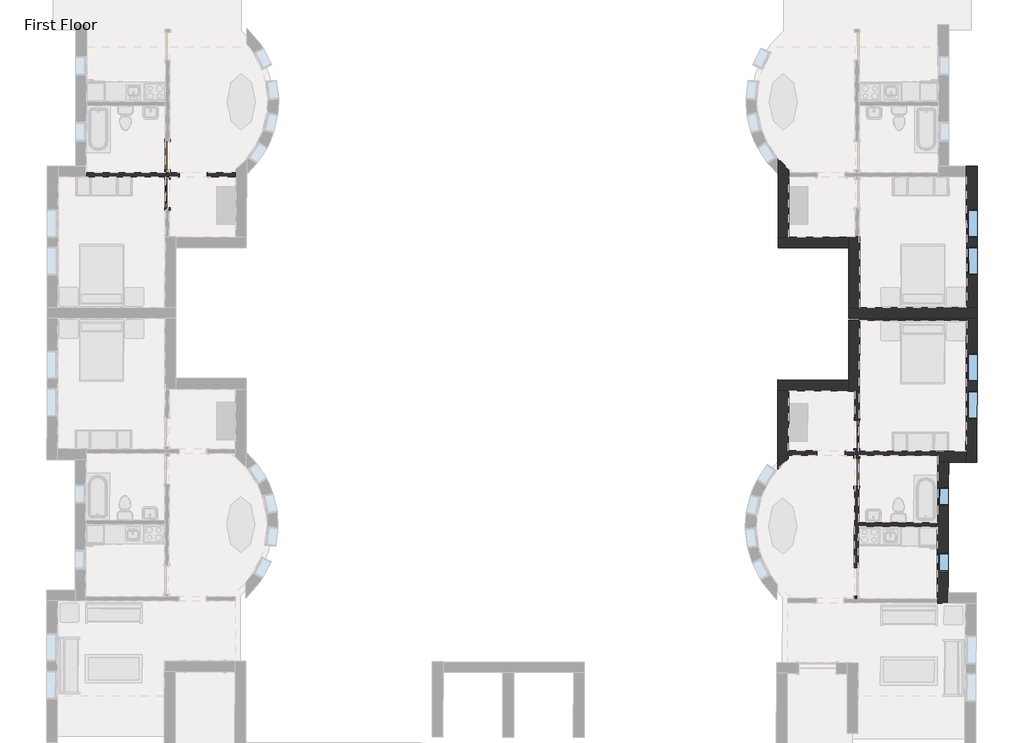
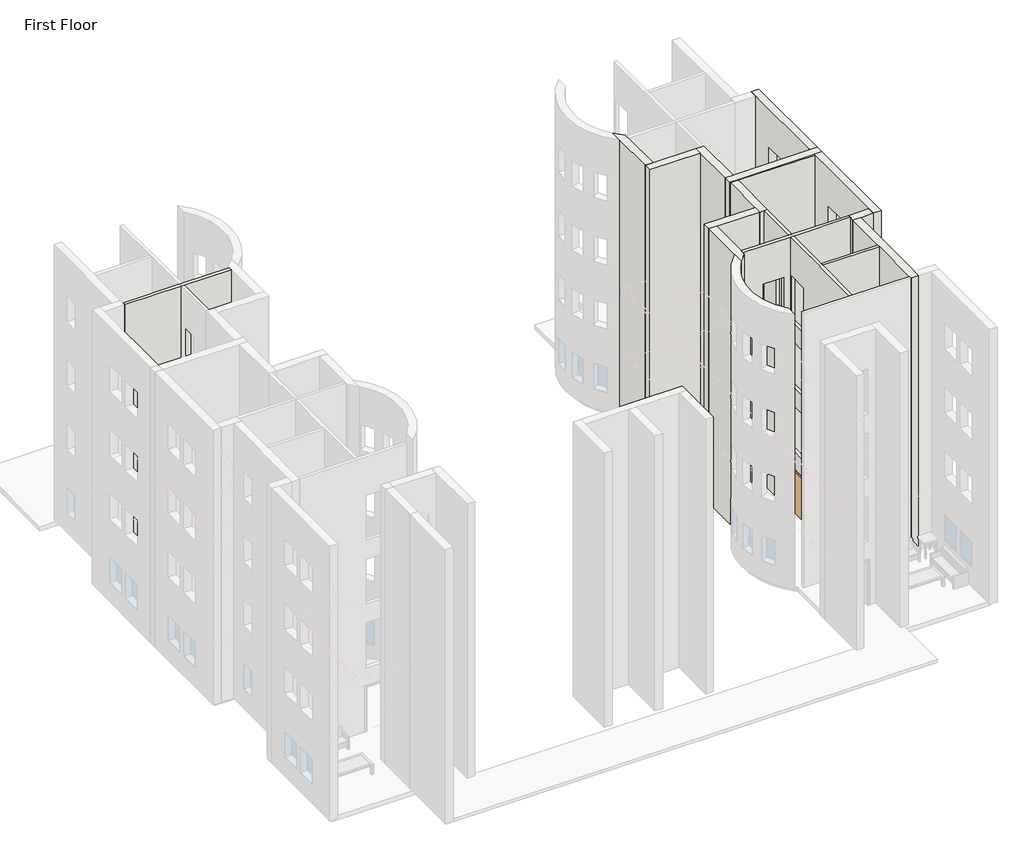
# One storey, part 9 of 23: 16 walls, 6 windows, 4 doors.
"""IFC4 building model written with IfcOpenShell, lengths in millimetres."""

from ifc_helpers import new_model, si_unit, frame, origin, origin_with_axes, place, context, project, spatial, polyline, circle_curve, outline, extrude, faceted_brep, transform, mapped, element, save
from ifc_brep_helpers import plane_surface, revolved_surface, advanced_brep
from components import m_single_decorative_2_0915_x_2134mm_cc9a65e4, m_single_flush_0915_x_2134mm_ab9b6334, m_fixed_0610_x_1220mm_2c28ef1d, m_fixed_0915_x_1220mm_bde29121, m_fixed_0915_x_1220mm_2a2509e7

model = new_model("IFC4")

# Units and contexts
model_context = context("Model", 3, world=origin())
ifc_project = project(units=[si_unit("LENGTHUNIT", "METRE", prefix="MILLI")], contexts=[model_context])

# Site, building, storey
site = spatial("IfcSite", under=ifc_project)
building = spatial("IfcBuilding", under=site)
storey = spatial("IfcBuildingStorey", under=building, Name="First Floor", Elevation=0.0)

# Doors
placement = place(None, origin())
m_single_decorative_2_0915_x_2134mm_shape = m_single_decorative_2_0915_x_2134mm_cc9a65e4(model_context)
element("IfcDoor", 1, ObjectType="M_Single-Decorative 2 : 0915 x 2134mm", at=placement, inside=storey, context=model_context, shape_type="MappedRepresentation", body=[
    mapped(m_single_decorative_2_0915_x_2134mm_shape, transform((-30117.2933431, -15803.1250115, 0.0), x_axis=(0.0014474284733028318, 0.9999989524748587, 0.0), y_axis=(-0.9999989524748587, 0.0014474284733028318, 0.0), z_axis=(0.0, 0.0, 1.0))),
])
element("IfcDoor", 2, ObjectType="M_Single-Decorative 2 : 0915 x 2134mm", at=placement, inside=storey, context=model_context, shape_type="MappedRepresentation", body=[
    mapped(m_single_decorative_2_0915_x_2134mm_shape, transform((-7808.1742155, -23599.2312198, 0.0), x_axis=(-0.004342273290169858, -0.9999905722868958, 0.0), y_axis=(0.9999905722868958, -0.004342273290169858, 0.0), z_axis=(0.0, 0.0, 1.0))),
])
m_single_flush_0915_x_2134mm_shape = m_single_flush_0915_x_2134mm_ab9b6334(model_context)
element("IfcDoor", 3, ObjectType="M_Single-Flush : 0915 x 2134mm", at=placement, inside=storey, context=model_context, shape_type="MappedRepresentation", body=[
    mapped(m_single_flush_0915_x_2134mm_shape, transform((-30115.5274803, -14583.1262895, 0.0), x_axis=(-0.0014474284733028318, -0.9999989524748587, 0.0), y_axis=(0.9999989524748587, -0.0014474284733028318, 0.0), z_axis=(0.0, 0.0, 1.0))),
])
element("IfcDoor", 4, ObjectType="M_Single-Flush : 0915 x 2134mm", at=placement, inside=storey, context=model_context, shape_type="MappedRepresentation", body=[
    mapped(m_single_flush_0915_x_2134mm_shape, transform((-7813.4717889, -24819.219718, 0.0), x_axis=(0.004342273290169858, 0.9999905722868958, 0.0), y_axis=(-0.9999905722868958, 0.004342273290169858, 0.0), z_axis=(0.0, 0.0, 1.0))),
])

# Walls
element("IfcWall", 5, ObjectType="Exterior - Brick on Mtl. Stud", at=placement, inside=storey, context=model_context, shape_type="Brep", body=[
    faceted_brep([(-8066.0409129, -19844.2688215, 0.0), (-7716.0412795, -19843.7622216, 0.0), (-4256.8117198, -19838.755229, 0.0), (-4256.044904, -19838.7541191, 0.0), (-3906.8062202, -19838.2486205, 0.0), (-3906.0452706, -19838.2475191, 0.0), (-3906.0452706, -19838.2475191, 13107.0), (-3906.8062202, -19838.2486205, 13107.0), (-4256.044904, -19838.7541191, 13107.0), (-4256.8117198, -19838.755229, 13107.0), (-7716.0412795, -19843.7622216, 13107.0), (-8066.0409129, -19844.2688215, 13107.0), (-8066.5475129, -19494.2691882, 0.0), (-8066.5475129, -19494.2691882, 13107.0), (-7716.5478795, -19493.7625882, 13107.0), (-4256.5515039, -19488.7544857, 13107.0), (-3906.5518706, -19488.2478857, 13107.0), (-3906.5518706, -19488.2478857, 0.0), (-4256.5515039, -19488.7544857, 0.0), (-7716.5478795, -19493.7625882, 0.0)], [[[0, 1, 2, 3, 4, 5, 6, 7, 8, 9, 10, 11]], [[12, 13, 14, 15, 16, 17, 18, 19]], [[5, 4, 3, 2, 1, 0, 12, 19, 18, 17]], [[11, 10, 9, 8, 7, 6, 16, 15, 14, 13]], [[6, 5, 17, 16]], [[0, 11, 13, 12]]]),
])
element("IfcWall", 6, ObjectType="Exterior - Brick on Mtl. Stud", at=placement, inside=storey, context=model_context, shape_type="Brep", body=[
    faceted_brep([(-3906.5518706, -19488.2478857, 0.0), (-3913.1695136, -14916.252675, 0.0), (-3913.1695136, -14916.252675, 13107.0), (-3906.5518706, -19488.2478857, 13107.0), (-3909.3872382, -17529.3499377, 915.0), (-3908.0628412, -18444.3489792, 915.0), (-3908.0628412, -18444.3489792, 2135.0), (-3909.3872382, -17529.3499377, 2135.0), (-3911.151943, -16310.1512149, 915.0), (-3909.827546, -17225.1502564, 915.0), (-3909.827546, -17225.1502564, 2135.0), (-3911.151943, -16310.1512149, 2135.0), (-3911.151943, -16310.1512149, 10059.0), (-3909.827546, -17225.1502564, 10059.0), (-3909.827546, -17225.1502564, 11279.0), (-3911.151943, -16310.1512149, 11279.0), (-3909.3872382, -17529.3499377, 10059.0), (-3908.0628412, -18444.3489792, 10059.0), (-3908.0628412, -18444.3489792, 11279.0), (-3909.3872382, -17529.3499377, 11279.0), (-3911.151943, -16310.1512149, 3963.0), (-3909.827546, -17225.1502564, 3963.0), (-3909.827546, -17225.1502564, 5183.0), (-3911.151943, -16310.1512149, 5183.0), (-3909.3872382, -17529.3499377, 3963.0), (-3908.0628412, -18444.3489792, 3963.0), (-3908.0628412, -18444.3489792, 5183.0), (-3909.3872382, -17529.3499377, 5183.0), (-3911.151943, -16310.1512149, 7011.0), (-3909.827546, -17225.1502564, 7011.0), (-3909.827546, -17225.1502564, 8231.0), (-3911.151943, -16310.1512149, 8231.0), (-3909.3872382, -17529.3499377, 7011.0), (-3908.0628412, -18444.3489792, 7011.0), (-3908.0628412, -18444.3489792, 8231.0), (-3909.3872382, -17529.3499377, 8231.0), (-4256.5515039, -19488.7544857, 0.0), (-4256.5515039, -19488.7544857, 13107.0), (-4262.662547, -15266.7589083, 13107.0), (-4263.1691469, -14916.759275, 13107.0), (-4263.1691469, -14916.759275, 0.0), (-4262.662547, -15266.7589083, 0.0), (-4259.3868716, -17529.8565377, 915.0), (-4259.3868716, -17529.8565377, 2135.0), (-4258.0624745, -18444.8555792, 2135.0), (-4258.0624745, -18444.8555792, 915.0), (-4261.1515764, -16310.6578148, 915.0), (-4261.1515764, -16310.6578148, 2135.0), (-4259.8271793, -17225.6568563, 2135.0), (-4259.8271793, -17225.6568563, 915.0), (-4261.1515764, -16310.6578148, 10059.0), (-4261.1515764, -16310.6578148, 11279.0), (-4259.8271793, -17225.6568563, 11279.0), (-4259.8271793, -17225.6568563, 10059.0), (-4259.3868716, -17529.8565377, 10059.0), (-4259.3868716, -17529.8565377, 11279.0), (-4258.0624745, -18444.8555792, 11279.0), (-4258.0624745, -18444.8555792, 10059.0), (-4261.1515764, -16310.6578148, 3963.0), (-4261.1515764, -16310.6578148, 5183.0), (-4259.8271793, -17225.6568563, 5183.0), (-4259.8271793, -17225.6568563, 3963.0), (-4259.3868716, -17529.8565377, 3963.0), (-4259.3868716, -17529.8565377, 5183.0), (-4258.0624745, -18444.8555792, 5183.0), (-4258.0624745, -18444.8555792, 3963.0), (-4261.1515764, -16310.6578148, 7011.0), (-4261.1515764, -16310.6578148, 8231.0), (-4259.8271793, -17225.6568563, 8231.0), (-4259.8271793, -17225.6568563, 7011.0), (-4259.3868716, -17529.8565377, 7011.0), (-4259.3868716, -17529.8565377, 8231.0), (-4258.0624745, -18444.8555792, 8231.0), (-4258.0624745, -18444.8555792, 7011.0)], [[[0, 1, 2, 3], [4, 5, 6, 7], [8, 9, 10, 11], [12, 13, 14, 15], [16, 17, 18, 19], [20, 21, 22, 23], [24, 25, 26, 27], [28, 29, 30, 31], [32, 33, 34, 35]], [[36, 37, 38, 39, 40, 41], [42, 43, 44, 45], [46, 47, 48, 49], [50, 51, 52, 53], [54, 55, 56, 57], [58, 59, 60, 61], [62, 63, 64, 65], [66, 67, 68, 69], [70, 71, 72, 73]], [[1, 0, 36, 41, 40]], [[3, 2, 39, 38, 37]], [[0, 3, 37, 36]], [[2, 1, 40, 39]], [[43, 42, 4, 7]], [[44, 43, 7, 6]], [[45, 44, 6, 5]], [[42, 45, 5, 4]], [[47, 46, 8, 11]], [[48, 47, 11, 10]], [[49, 48, 10, 9]], [[46, 49, 9, 8]], [[51, 50, 12, 15]], [[52, 51, 15, 14]], [[53, 52, 14, 13]], [[50, 53, 13, 12]], [[55, 54, 16, 19]], [[56, 55, 19, 18]], [[57, 56, 18, 17]], [[54, 57, 17, 16]], [[59, 58, 20, 23]], [[60, 59, 23, 22]], [[61, 60, 22, 21]], [[58, 61, 21, 20]], [[63, 62, 24, 27]], [[64, 63, 27, 26]], [[65, 64, 26, 25]], [[62, 65, 25, 24]], [[67, 66, 28, 31]], [[68, 67, 31, 30]], [[69, 68, 30, 29]], [[66, 69, 29, 28]], [[71, 70, 32, 35]], [[72, 71, 35, 34]], [[73, 72, 34, 33]], [[70, 73, 33, 32]]]),
])
element("IfcWall", 7, ObjectType="Exterior - Brick on Mtl. Stud", at=placement, inside=storey, context=model_context, shape_type="Brep", body=[
    faceted_brep([(-7716.5478795, -19493.7625882, 0.0), (-7719.856701, -17207.7649828, 0.0), (-7719.856701, -17207.7649828, 13107.0), (-7716.5478795, -19493.7625882, 13107.0), (-8066.5475129, -19494.2691882, 0.0), (-8066.5475129, -19494.2691882, 13107.0), (-8069.3497344, -17558.2712162, 13107.0), (-8069.8563344, -17208.2715828, 13107.0), (-8069.8563344, -17208.2715828, 0.0), (-8069.3497344, -17558.2712162, 0.0), (-7862.6065515, -17207.9716033, 0.0), (-7727.1066934, -17207.7754767, 0.0), (-7727.1066934, -17207.7754767, 13107.0), (-7862.6065515, -17207.9716033, 13107.0)], [[[0, 1, 2, 3]], [[4, 5, 6, 7, 8, 9]], [[1, 0, 4, 9, 8, 10, 11]], [[3, 2, 12, 13, 7, 6, 5]], [[0, 3, 5, 4]], [[2, 1, 11, 10, 8, 7, 13, 12]]]),
])
element("IfcWall", 8, ObjectType="Exterior - Brick on Mtl. Stud", at=placement, inside=storey, context=model_context, shape_type="Brep", body=[
    faceted_brep([(-8069.8563344, -17208.2715828, 0.0), (-10005.8543064, -17211.0738043, 0.0), (-10355.8539397, -17211.5804043, 0.0), (-10355.8539397, -17211.5804043, 13107.0), (-10005.8543064, -17211.0738043, 13107.0), (-8069.8563344, -17208.2715828, 13107.0), (-8069.3497344, -17558.2712162, 0.0), (-8069.3497344, -17558.2712162, 13107.0), (-10355.3473398, -17561.5800377, 13107.0), (-10355.3473398, -17561.5800377, 0.0)], [[[0, 1, 2, 3, 4, 5]], [[6, 7, 8, 9]], [[2, 1, 0, 6, 9]], [[5, 4, 3, 8, 7]], [[0, 5, 7, 6]], [[3, 2, 9, 8]]]),
])
element("IfcWall", 9, ObjectType="Exterior - Brick on Mtl. Stud", at=placement, inside=storey, context=model_context, shape_type="AdvancedBrep", body=[
    advanced_brep(
    [(-10005.8543064, -17211.0738043, 0.0), (-10008.6670217, -15267.8258399, 0.0), (-10008.8631483, -15132.3259819, 0.0), (-10009.0262187, -15019.663975, 0.0), (-10009.0262187, -15019.663975, 13107.0), (-10008.8631483, -15132.3259819, 13107.0), (-10008.6670217, -15267.8258399, 13107.0), (-10005.8543064, -17211.0738043, 13107.0), (-10355.8539397, -17211.5804043, 0.0), (-10355.8539397, -17211.5804043, 13107.0), (-10358.7970277, -15178.2606268, 13107.0), (-10359.5284893, -14672.9086878, 13107.0), (-10359.5284893, -14672.9086878, 0.0), (-10358.7970277, -15178.2606268, 0.0)],
    [
        (0, 1),
        (1, 2),
        (2, 3),
        (3, 4),
        (4, 5),
        (5, 6),
        (6, 7),
        (7, 0),
        (8, 9),
        (9, 10),
        (10, 11),
        (11, 12),
        (12, 13),
        (13, 8),
        (0, 8),
        (12, 3, circle_curve(frame((-8171.1580789, -12811.413604, 0.0), z_axis=(0.0, 0.0, 1.0), x_axis=(-0.0014474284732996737, 0.9999989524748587, 0.0)), 2873.0)),
        (4, 11, circle_curve(frame((-8171.1580789, -12811.413604, 13107.0), z_axis=(0.0, 0.0, -1.0), x_axis=(-0.0014474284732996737, 0.9999989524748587, 0.0)), 2873.0)),
        (9, 7),
    ],
    [
        plane_surface(frame((-10005.6010064, -17386.073621, 0.0), z_axis=(0.9999989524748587, 0.0014474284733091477, 0.0), x_axis=(-0.0014474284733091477, 0.9999989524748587, 0.0))),
        plane_surface(frame((-10355.6006397, -17386.580221, 0.0), z_axis=(-0.9999989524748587, -0.0014474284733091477, 0.0), x_axis=(0.0014474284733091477, -0.9999989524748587, 0.0))),
        plane_surface(frame((-10005.6010064, -17386.073621, 0.0), z_axis=(0.0, 0.0, -1.0), x_axis=(-0.9999989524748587, -0.001447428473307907, 0.0))),
        plane_surface(frame((-10008.9098279, -15100.0760157, 13107.0), z_axis=(0.0, 0.0, 1.0), x_axis=(-0.9999989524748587, -0.001447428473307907, 0.0))),
        plane_surface(frame((-7894.8565177, -17208.0182828, 0.0), z_axis=(0.0014474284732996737, -0.9999989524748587, 0.0), x_axis=(-0.9999989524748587, -0.0014474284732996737, 0.0))),
        revolved_surface(polyline([(-8175.31654090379, -9938.41661353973, 0.0), (-8175.31654090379, -9938.41661353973, 13107.0)]), (-8171.1580789, -12811.413604, 0.0), (0.0, 0.0, -1.0)),
    ],
    [
        (0, [[1, 2, 3, 4, 5, 6, 7, 8]]),
        (1, [[9, 10, 11, 12, 13, 14]]),
        (2, [[-3, -2, -1, 15, -14, -13, 16]]),
        (3, [[-7, -6, -5, 17, -11, -10, 18]]),
        (4, [[-8, -18, -9, -15]]),
        (5, [[-4, -16, -12, -17]]),
    ],
),
])
element("IfcWall", 10, ObjectType="Exterior - Brick on Mtl. Stud", at=placement, inside=storey, context=model_context, shape_type="SweptSolid", body=[
    extrude(outline(polyline([(-4255.9217026, -19923.8714208), (-7715.947074, -19908.8469034), (-7716.0412795, -19843.7622216), (-4256.044904, -19838.7541191), (-4255.9217026, -19923.8714208)])), origin_with_axes(), (0.0, 0.0, 1.0), 13107.0),
])
element("IfcWall", 11, ObjectType="Exterior - Brick on Mtl. Stud", at=placement, inside=storey, context=model_context, shape_type="Brep", body=[
    faceted_brep([(-4256.8117198, -19838.755229, 0.0), (-4275.5143752, -24145.8261474, 0.0), (-4277.0341708, -24495.8228477, 0.0), (-4277.0341708, -24495.8228477, 13107.0), (-4275.5143752, -24145.8261474, 13107.0), (-4256.8117198, -19838.755229, 13107.0), (-4265.6873765, -21882.7474833, 915.0), (-4261.7141964, -20967.7561097, 915.0), (-4261.7141964, -20967.7561097, 2135.0), (-4265.6873765, -21882.7474833, 2135.0), (-4270.9814761, -23101.935989, 915.0), (-4267.008296, -22186.9446154, 915.0), (-4267.008296, -22186.9446154, 2135.0), (-4270.9814761, -23101.935989, 2135.0), (-4270.9814761, -23101.935989, 10059.0), (-4267.008296, -22186.9446154, 10059.0), (-4267.008296, -22186.9446154, 11279.0), (-4270.9814761, -23101.935989, 11279.0), (-4265.6873765, -21882.7474833, 10059.0), (-4261.7141964, -20967.7561097, 10059.0), (-4261.7141964, -20967.7561097, 11279.0), (-4265.6873765, -21882.7474833, 11279.0), (-4270.9814761, -23101.935989, 3963.0), (-4267.008296, -22186.9446154, 3963.0), (-4267.008296, -22186.9446154, 5183.0), (-4270.9814761, -23101.935989, 5183.0), (-4265.6873765, -21882.7474833, 3963.0), (-4261.7141964, -20967.7561097, 3963.0), (-4261.7141964, -20967.7561097, 5183.0), (-4265.6873765, -21882.7474833, 5183.0), (-4270.9814761, -23101.935989, 7011.0), (-4267.008296, -22186.9446154, 7011.0), (-4267.008296, -22186.9446154, 8231.0), (-4270.9814761, -23101.935989, 8231.0), (-4265.6873765, -21882.7474833, 7011.0), (-4261.7141964, -20967.7561097, 7011.0), (-4261.7141964, -20967.7561097, 8231.0), (-4265.6873765, -21882.7474833, 8231.0), (-3906.8062202, -19838.2486205, 0.0), (-3906.8062202, -19838.2486205, 13107.0), (-3927.0374705, -24497.3426434, 13107.0), (-3927.0374705, -24497.3426434, 0.0), (-3915.6906762, -21884.267279, 915.0), (-3915.6906762, -21884.267279, 2135.0), (-3911.7174961, -20969.2759053, 2135.0), (-3911.7174961, -20969.2759053, 915.0), (-3920.9847758, -23103.4557847, 915.0), (-3920.9847758, -23103.4557847, 2135.0), (-3917.0115957, -22188.464411, 2135.0), (-3917.0115957, -22188.464411, 915.0), (-3920.9847758, -23103.4557847, 10059.0), (-3920.9847758, -23103.4557847, 11279.0), (-3917.0115957, -22188.464411, 11279.0), (-3917.0115957, -22188.464411, 10059.0), (-3915.6906762, -21884.267279, 10059.0), (-3915.6906762, -21884.267279, 11279.0), (-3911.7174961, -20969.2759053, 11279.0), (-3911.7174961, -20969.2759053, 10059.0), (-3920.9847758, -23103.4557847, 3963.0), (-3920.9847758, -23103.4557847, 5183.0), (-3917.0115957, -22188.464411, 5183.0), (-3917.0115957, -22188.464411, 3963.0), (-3915.6906762, -21884.267279, 3963.0), (-3915.6906762, -21884.267279, 5183.0), (-3911.7174961, -20969.2759053, 5183.0), (-3911.7174961, -20969.2759053, 3963.0), (-3920.9847758, -23103.4557847, 7011.0), (-3920.9847758, -23103.4557847, 8231.0), (-3917.0115957, -22188.464411, 8231.0), (-3917.0115957, -22188.464411, 7011.0), (-3915.6906762, -21884.267279, 7011.0), (-3915.6906762, -21884.267279, 8231.0), (-3911.7174961, -20969.2759053, 8231.0), (-3911.7174961, -20969.2759053, 7011.0)], [[[0, 1, 2, 3, 4, 5], [6, 7, 8, 9], [10, 11, 12, 13], [14, 15, 16, 17], [18, 19, 20, 21], [22, 23, 24, 25], [26, 27, 28, 29], [30, 31, 32, 33], [34, 35, 36, 37]], [[38, 39, 40, 41], [42, 43, 44, 45], [46, 47, 48, 49], [50, 51, 52, 53], [54, 55, 56, 57], [58, 59, 60, 61], [62, 63, 64, 65], [66, 67, 68, 69], [70, 71, 72, 73]], [[2, 1, 0, 38, 41]], [[5, 4, 3, 40, 39]], [[0, 5, 39, 38]], [[3, 2, 41, 40]], [[43, 42, 6, 9]], [[44, 43, 9, 8]], [[45, 44, 8, 7]], [[42, 45, 7, 6]], [[47, 46, 10, 13]], [[48, 47, 13, 12]], [[49, 48, 12, 11]], [[46, 49, 11, 10]], [[51, 50, 14, 17]], [[52, 51, 17, 16]], [[53, 52, 16, 15]], [[50, 53, 15, 14]], [[55, 54, 18, 21]], [[56, 55, 21, 20]], [[57, 56, 20, 19]], [[54, 57, 19, 18]], [[59, 58, 22, 25]], [[60, 59, 25, 24]], [[61, 60, 24, 23]], [[58, 61, 23, 22]], [[63, 62, 26, 29]], [[64, 63, 29, 28]], [[65, 64, 28, 27]], [[62, 65, 27, 26]], [[67, 66, 30, 33]], [[68, 67, 33, 32]], [[69, 68, 32, 31]], [[66, 69, 31, 30]], [[71, 70, 34, 37]], [[72, 71, 37, 36]], [[73, 72, 36, 35]], [[70, 73, 35, 34]]]),
])
element("IfcWall", 12, ObjectType="Exterior - Brick on Mtl. Stud", at=placement, inside=storey, context=model_context, shape_type="Brep", body=[
    faceted_brep([(-4275.5143752, -24145.8261474, 0.0), (-5189.9057545, -24141.8555727, 0.0), (-5189.9057545, -24141.8555727, 13107.0), (-4275.5143752, -24145.8261474, 13107.0), (-4277.0341708, -24495.8228477, 0.0), (-4277.0341708, -24495.8228477, 13107.0), (-4841.4288498, -24493.3720687, 13107.0), (-5191.4255501, -24491.852273, 13107.0), (-5191.4255501, -24491.852273, 0.0), (-4841.4288498, -24493.3720687, 0.0), (-5190.525614, -24284.6042269, 0.0), (-5189.9372359, -24149.1055044, 0.0), (-5189.9372359, -24149.1055044, 13107.0), (-5190.525614, -24284.6042269, 13107.0)], [[[0, 1, 2, 3]], [[4, 5, 6, 7, 8, 9]], [[1, 0, 4, 9, 8, 10, 11]], [[3, 2, 12, 13, 7, 6, 5]], [[0, 3, 5, 4]], [[2, 1, 11, 10, 8, 7, 13, 12]]]),
])
element("IfcWall", 13, ObjectType="Exterior - Brick on Mtl. Stud", at=placement, inside=storey, context=model_context, shape_type="Brep", body=[
    faceted_brep([(-5191.4255501, -24491.852273, 0.0), (-5199.9303266, -26450.4338079, 0.0), (-5200.5187046, -26585.9325305, 0.0), (-5210.6585641, -28921.0605153, 0.0), (-5211.2469421, -29056.5592379, 0.0), (-5211.2784236, -29063.8091695, 0.0), (-5211.2784236, -29063.8091695, 13107.0), (-5211.2469421, -29056.5592379, 13107.0), (-5210.6585641, -28921.0605153, 13107.0), (-5200.5187046, -26585.9325305, 13107.0), (-5199.9303266, -26450.4338079, 13107.0), (-5191.4255501, -24491.852273, 13107.0), (-5197.5783343, -25908.7889144, 915.0), (-5194.9295475, -25298.7946654, 915.0), (-5194.9295475, -25298.7946654, 2135.0), (-5197.5783343, -25908.7889144, 2135.0), (-5206.8430085, -28042.3687995, 915.0), (-5204.1942218, -27432.3745504, 915.0), (-5204.1942218, -27432.3745504, 2135.0), (-5206.8430085, -28042.3687995, 2135.0), (-5206.8430085, -28042.3687995, 10059.0), (-5204.1942218, -27432.3745504, 10059.0), (-5204.1942218, -27432.3745504, 11279.0), (-5206.8430085, -28042.3687995, 11279.0), (-5197.5783343, -25908.7889144, 10059.0), (-5194.9295475, -25298.7946654, 10059.0), (-5194.9295475, -25298.7946654, 11279.0), (-5197.5783343, -25908.7889144, 11279.0), (-5206.8430085, -28042.3687995, 3963.0), (-5204.1942218, -27432.3745504, 3963.0), (-5204.1942218, -27432.3745504, 5183.0), (-5206.8430085, -28042.3687995, 5183.0), (-5197.5783343, -25908.7889144, 3963.0), (-5194.9295475, -25298.7946654, 3963.0), (-5194.9295475, -25298.7946654, 5183.0), (-5197.5783343, -25908.7889144, 5183.0), (-5206.8430085, -28042.3687995, 7011.0), (-5204.1942218, -27432.3745504, 7011.0), (-5204.1942218, -27432.3745504, 8231.0), (-5206.8430085, -28042.3687995, 8231.0), (-5197.5783343, -25908.7889144, 7011.0), (-5194.9295475, -25298.7946654, 7011.0), (-5194.9295475, -25298.7946654, 8231.0), (-5197.5783343, -25908.7889144, 8231.0), (-4841.4288498, -24493.3720687, 0.0), (-4841.4288498, -24493.3720687, 13107.0), (-4859.7619276, -28715.3322649, 13107.0), (-4861.2817233, -29065.3289652, 13107.0), (-4861.2817233, -29065.3289652, 0.0), (-4859.7619276, -28715.3322649, 0.0), (-4847.5816339, -25910.3087101, 915.0), (-4847.5816339, -25910.3087101, 2135.0), (-4844.9328472, -25300.314461, 2135.0), (-4844.9328472, -25300.314461, 915.0), (-4856.8463082, -28043.8885951, 915.0), (-4856.8463082, -28043.8885951, 2135.0), (-4854.1975215, -27433.894346, 2135.0), (-4854.1975215, -27433.894346, 915.0), (-4856.8463082, -28043.8885951, 10059.0), (-4856.8463082, -28043.8885951, 11279.0), (-4854.1975215, -27433.894346, 11279.0), (-4854.1975215, -27433.894346, 10059.0), (-4847.5816339, -25910.3087101, 10059.0), (-4847.5816339, -25910.3087101, 11279.0), (-4844.9328472, -25300.314461, 11279.0), (-4844.9328472, -25300.314461, 10059.0), (-4856.8463082, -28043.8885951, 3963.0), (-4856.8463082, -28043.8885951, 5183.0), (-4854.1975215, -27433.894346, 5183.0), (-4854.1975215, -27433.894346, 3963.0), (-4847.5816339, -25910.3087101, 3963.0), (-4847.5816339, -25910.3087101, 5183.0), (-4844.9328472, -25300.314461, 5183.0), (-4844.9328472, -25300.314461, 3963.0), (-4856.8463082, -28043.8885951, 7011.0), (-4856.8463082, -28043.8885951, 8231.0), (-4854.1975215, -27433.894346, 8231.0), (-4854.1975215, -27433.894346, 7011.0), (-4847.5816339, -25910.3087101, 7011.0), (-4847.5816339, -25910.3087101, 8231.0), (-4844.9328472, -25300.314461, 8231.0), (-4844.9328472, -25300.314461, 7011.0)], [[[0, 1, 2, 3, 4, 5, 6, 7, 8, 9, 10, 11], [12, 13, 14, 15], [16, 17, 18, 19], [20, 21, 22, 23], [24, 25, 26, 27], [28, 29, 30, 31], [32, 33, 34, 35], [36, 37, 38, 39], [40, 41, 42, 43]], [[44, 45, 46, 47, 48, 49], [50, 51, 52, 53], [54, 55, 56, 57], [58, 59, 60, 61], [62, 63, 64, 65], [66, 67, 68, 69], [70, 71, 72, 73], [74, 75, 76, 77], [78, 79, 80, 81]], [[5, 4, 3, 2, 1, 0, 44, 49, 48]], [[11, 10, 9, 8, 7, 6, 47, 46, 45]], [[0, 11, 45, 44]], [[6, 5, 48, 47]], [[51, 50, 12, 15]], [[52, 51, 15, 14]], [[53, 52, 14, 13]], [[50, 53, 13, 12]], [[55, 54, 16, 19]], [[56, 55, 19, 18]], [[57, 56, 18, 17]], [[54, 57, 17, 16]], [[59, 58, 20, 23]], [[60, 59, 23, 22]], [[61, 60, 22, 21]], [[58, 61, 21, 20]], [[63, 62, 24, 27]], [[64, 63, 27, 26]], [[65, 64, 26, 25]], [[62, 65, 25, 24]], [[67, 66, 28, 31]], [[68, 67, 31, 30]], [[69, 68, 30, 29]], [[66, 69, 29, 28]], [[71, 70, 32, 35]], [[72, 71, 35, 34]], [[73, 72, 34, 33]], [[70, 73, 33, 32]], [[75, 74, 36, 39]], [[76, 75, 39, 38]], [[77, 76, 38, 37]], [[74, 77, 37, 36]], [[79, 78, 40, 43]], [[80, 79, 43, 42]], [[81, 80, 42, 41]], [[78, 81, 41, 40]]]),
])
element("IfcWall", 14, ObjectType="Exterior - Brick on Mtl. Stud", at=placement, inside=storey, context=model_context, shape_type="Brep", body=[
    faceted_brep([(-8067.1453777, -19907.32189, 0.0), (-8075.5520188, -21843.303638, 0.0), (-8077.0718145, -22193.3003383, 0.0), (-8077.0718145, -22193.3003383, 13107.0), (-8075.5520188, -21843.303638, 13107.0), (-8067.1453777, -19907.32189, 13107.0), (-7717.1486774, -19908.8416857, 0.0), (-7717.1486774, -19908.8416857, 13107.0), (-7727.0751142, -22194.8201339, 13107.0), (-7727.0751142, -22194.8201339, 0.0), (-7734.3250458, -22194.7886524, 0.0), (-7869.8237684, -22194.2002744, 0.0), (-7869.8237684, -22194.2002744, 13107.0), (-7734.3250458, -22194.7886524, 13107.0)], [[[0, 1, 2, 3, 4, 5]], [[6, 7, 8, 9]], [[2, 1, 0, 6, 9, 10, 11]], [[5, 4, 3, 12, 13, 8, 7]], [[0, 5, 7, 6]], [[3, 2, 11, 10, 9, 8, 13, 12]]]),
])
element("IfcWall", 15, ObjectType="Exterior - Brick on Mtl. Stud", at=placement, inside=storey, context=model_context, shape_type="Brep", body=[
    faceted_brep([(-8075.5520188, -21843.303638, 0.0), (-10361.5304671, -21833.3772012, 0.0), (-10361.5304671, -21833.3772012, 13107.0), (-8075.5520188, -21843.303638, 13107.0), (-8077.0718145, -22193.3003383, 0.0), (-8077.0718145, -22193.3003383, 13107.0), (-10013.0535624, -22184.8936972, 13107.0), (-10363.0502627, -22183.3739015, 13107.0), (-10363.0502627, -22183.3739015, 0.0), (-10013.0535624, -22184.8936972, 0.0)], [[[0, 1, 2, 3]], [[4, 5, 6, 7, 8, 9]], [[1, 0, 4, 9, 8]], [[3, 2, 7, 6, 5]], [[0, 3, 5, 4]], [[2, 1, 8, 7]]]),
])
element("IfcWall", 16, ObjectType="Exterior - Brick on Mtl. Stud", at=placement, inside=storey, context=model_context, shape_type="AdvancedBrep", body=[
    advanced_brep(
    [(-10363.0502627, -22183.3739015, 0.0), (-10371.8795021, -24216.6766394, 0.0), (-10374.0738807, -24722.0243435, 0.0), (-10374.0738807, -24722.0243435, 13107.0), (-10371.8795021, -24216.6766394, 13107.0), (-10363.0502627, -22183.3739015, 13107.0), (-10013.0535624, -22184.8936972, 0.0), (-10013.0535624, -22184.8936972, 13107.0), (-10021.491685, -24128.1253768, 13107.0), (-10022.080063, -24263.6240993, 13107.0), (-10022.5692728, -24376.2851621, 13107.0), (-10022.5692728, -24376.2851621, 0.0), (-10022.080063, -24263.6240993, 0.0), (-10021.491685, -24128.1253768, 0.0)],
    [
        (0, 1),
        (1, 2),
        (2, 3),
        (3, 4),
        (4, 5),
        (5, 0),
        (6, 7),
        (7, 8),
        (8, 9),
        (9, 10),
        (10, 11),
        (11, 12),
        (12, 13),
        (13, 6),
        (0, 6),
        (11, 2, circle_curve(frame((-8191.1013961, -26589.84664, 0.0), z_axis=(0.0, 0.0, 1.0), x_axis=(-0.0043422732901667, -0.9999905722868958, 0.0)), 2873.0)),
        (3, 10, circle_curve(frame((-8191.1013961, -26589.84664, 13107.0), z_axis=(0.0, 0.0, -1.0), x_axis=(-0.0043422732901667, -0.9999905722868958, 0.0)), 2873.0)),
        (7, 5),
    ],
    [
        plane_surface(frame((-10362.2903649, -22008.3755514, 0.0), z_axis=(-0.9999905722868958, 0.0043422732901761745, 0.0), x_axis=(-0.0043422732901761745, -0.9999905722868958, 0.0))),
        plane_surface(frame((-10012.2936646, -22009.895347, 0.0), z_axis=(0.9999905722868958, -0.0043422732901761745, 0.0), x_axis=(0.0043422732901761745, 0.9999905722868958, 0.0))),
        plane_surface(frame((-10362.2903649, -22008.3755514, 0.0), z_axis=(0.0, 0.0, -1.0000000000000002), x_axis=(0.9999905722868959, -0.004342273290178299, 0.0))),
        plane_surface(frame((-10372.2168016, -24294.3539996, 13107.0), z_axis=(0.0, 0.0, 1.0000000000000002), x_axis=(0.9999905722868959, -0.004342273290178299, 0.0))),
        plane_surface(frame((-7902.0734643, -22194.0602361, 0.0), z_axis=(0.004342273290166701, 0.9999905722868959, 0.0), x_axis=(0.9999905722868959, -0.004342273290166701, 0.0))),
        revolved_surface(polyline([(-8203.576747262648, -29462.819554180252, 0.0), (-8203.576747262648, -29462.819554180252, 13107.0)]), (-8191.1013961, -26589.84664, 0.0), (0.0, 0.0, -1.0)),
    ],
    [
        (0, [[1, 2, 3, 4, 5, 6]]),
        (1, [[7, 8, 9, 10, 11, 12, 13, 14]]),
        (2, [[-2, -1, 15, -14, -13, -12, 16]]),
        (3, [[-5, -4, 17, -10, -9, -8, 18]]),
        (4, [[-6, -18, -7, -15]]),
        (5, [[-3, -16, -11, -17]]),
    ],
),
])
element("IfcWall", 17, ObjectType="Interior - 135mm Partition (2-hr)", at=placement, inside=storey, context=model_context, shape_type="Brep", body=[
    faceted_brep([(-28820.8152601, -15266.5010087, 2134.0), (-28820.8152601, -15266.5010087, 0.0), (-27905.5162189, -15267.8258399, 0.0), (-27905.5162189, -15267.8258399, 13107.0), (-30048.7639738, -15264.7236389, 13107.0), (-30184.2638319, -15264.5275123, 13107.0), (-32737.1111577, -15260.8324445, 13107.0), (-32737.1111577, -15260.8324445, 0.0), (-30184.2638319, -15264.5275123, 0.0), (-30048.7639738, -15264.7236389, 0.0), (-29735.8143016, -15265.1766116, 0.0), (-29735.8143016, -15265.1766116, 2134.0), (-29735.8143016, -15265.1766116, 11278.0), (-28820.8152601, -15266.5010087, 11278.0), (-28820.8152601, -15266.5010087, 9144.0), (-29735.8143016, -15265.1766116, 9144.0), (-29735.8143016, -15265.1766116, 5182.0), (-28820.8152601, -15266.5010087, 5182.0), (-28820.8152601, -15266.5010087, 3048.0), (-29735.8143016, -15265.1766116, 3048.0), (-29735.8143016, -15265.1766116, 8230.0), (-28820.8152601, -15266.5010087, 8230.0), (-28820.8152601, -15266.5010087, 6096.0), (-29735.8143016, -15265.1766116, 6096.0), (-27905.3200924, -15132.3259819, 0.0), (-28820.6191336, -15131.0011506, 0.0), (-28820.6191336, -15131.0011506, 2134.0), (-29735.6181751, -15129.6767535, 2134.0), (-29735.6181751, -15129.6767535, 0.0), (-30048.5678472, -15129.2237808, 0.0), (-30184.0677053, -15129.0276542, 0.0), (-32736.9150311, -15125.3325865, 0.0), (-32736.9150311, -15125.3325865, 13107.0), (-30184.0677053, -15129.0276542, 13107.0), (-30048.5678472, -15129.2237808, 13107.0), (-27905.3200924, -15132.3259819, 13107.0), (-29735.6181751, -15129.6767535, 11278.0), (-29735.6181751, -15129.6767535, 9144.0), (-28820.6191336, -15131.0011506, 9144.0), (-28820.6191336, -15131.0011506, 11278.0), (-29735.6181751, -15129.6767535, 5182.0), (-29735.6181751, -15129.6767535, 3048.0), (-28820.6191336, -15131.0011506, 3048.0), (-28820.6191336, -15131.0011506, 5182.0), (-29735.6181751, -15129.6767535, 8230.0), (-29735.6181751, -15129.6767535, 6096.0), (-28820.6191336, -15131.0011506, 6096.0), (-28820.6191336, -15131.0011506, 8230.0)], [[[0, 1, 2, 3, 4, 5, 6, 7, 8, 9, 10, 11], [12, 13, 14, 15], [16, 17, 18, 19], [20, 21, 22, 23]], [[24, 25, 26, 27, 28, 29, 30, 31, 32, 33, 34, 35], [36, 37, 38, 39], [40, 41, 42, 43], [44, 45, 46, 47]], [[2, 1, 25, 24]], [[10, 9, 8, 7, 31, 30, 29, 28]], [[6, 5, 4, 3, 35, 34, 33, 32]], [[7, 6, 32, 31]], [[3, 2, 24, 35]], [[28, 27, 11, 10]], [[26, 25, 1, 0]], [[27, 26, 0, 11]], [[37, 36, 12, 15]], [[38, 37, 15, 14]], [[39, 38, 14, 13]], [[36, 39, 13, 12]], [[41, 40, 16, 19]], [[42, 41, 19, 18]], [[43, 42, 18, 17]], [[40, 43, 17, 16]], [[45, 44, 20, 23]], [[46, 45, 23, 22]], [[47, 46, 22, 21]], [[44, 47, 21, 20]]]),
])
element("IfcWall", 18, ObjectType="Interior - 135mm Partition (2-hr)", at=placement, inside=storey, context=model_context, shape_type="Brep", body=[
    faceted_brep([(-9106.2003142, -24132.0998595, 2134.0), (-9106.2003142, -24132.0998595, 0.0), (-10021.491685, -24128.1253768, 0.0), (-10021.491685, -24128.1253768, 13107.0), (-7878.2618909, -24137.431954, 13107.0), (-7742.7631684, -24138.020332, 13107.0), (-5189.9372359, -24149.1055044, 13107.0), (-5189.9372359, -24149.1055044, 0.0), (-7742.7631684, -24138.020332, 0.0), (-7878.2618909, -24137.431954, 0.0), (-8191.2089405, -24136.0730396, 0.0), (-8191.2089405, -24136.0730396, 2134.0), (-8191.2089405, -24136.0730396, 11278.0), (-9106.2003142, -24132.0998595, 11278.0), (-9106.2003142, -24132.0998595, 9144.0), (-8191.2089405, -24136.0730396, 9144.0), (-8191.2089405, -24136.0730396, 5182.0), (-9106.2003142, -24132.0998595, 5182.0), (-9106.2003142, -24132.0998595, 3048.0), (-8191.2089405, -24136.0730396, 3048.0), (-8191.2089405, -24136.0730396, 8230.0), (-9106.2003142, -24132.0998595, 8230.0), (-9106.2003142, -24132.0998595, 6096.0), (-8191.2089405, -24136.0730396, 6096.0), (-10022.080063, -24263.6240993, 0.0), (-9106.7886922, -24267.5985821, 0.0), (-9106.7886922, -24267.5985821, 2134.0), (-8191.7973186, -24271.5717621, 2134.0), (-8191.7973186, -24271.5717621, 0.0), (-7878.850269, -24272.9306765, 0.0), (-7743.3515464, -24273.5190546, 0.0), (-5190.525614, -24284.6042269, 0.0), (-5190.525614, -24284.6042269, 13107.0), (-7743.3515464, -24273.5190546, 13107.0), (-7878.850269, -24272.9306765, 13107.0), (-10022.080063, -24263.6240993, 13107.0), (-8191.7973186, -24271.5717621, 11278.0), (-8191.7973186, -24271.5717621, 9144.0), (-9106.7886922, -24267.5985821, 9144.0), (-9106.7886922, -24267.5985821, 11278.0), (-8191.7973186, -24271.5717621, 5182.0), (-8191.7973186, -24271.5717621, 3048.0), (-9106.7886922, -24267.5985821, 3048.0), (-9106.7886922, -24267.5985821, 5182.0), (-8191.7973186, -24271.5717621, 8230.0), (-8191.7973186, -24271.5717621, 6096.0), (-9106.7886922, -24267.5985821, 6096.0), (-9106.7886922, -24267.5985821, 8230.0)], [[[0, 1, 2, 3, 4, 5, 6, 7, 8, 9, 10, 11], [12, 13, 14, 15], [16, 17, 18, 19], [20, 21, 22, 23]], [[24, 25, 26, 27, 28, 29, 30, 31, 32, 33, 34, 35], [36, 37, 38, 39], [40, 41, 42, 43], [44, 45, 46, 47]], [[2, 1, 25, 24]], [[10, 9, 8, 7, 31, 30, 29, 28]], [[6, 5, 4, 3, 35, 34, 33, 32]], [[7, 6, 32, 31]], [[3, 2, 24, 35]], [[28, 27, 11, 10]], [[26, 25, 1, 0]], [[27, 26, 0, 11]], [[37, 36, 12, 15]], [[38, 37, 15, 14]], [[39, 38, 14, 13]], [[36, 39, 13, 12]], [[41, 40, 16, 19]], [[42, 41, 19, 18]], [[43, 42, 18, 17]], [[40, 43, 17, 16]], [[45, 44, 20, 23]], [[46, 45, 23, 22]], [[47, 46, 22, 21]], [[44, 47, 21, 20]]]),
])
element("IfcWall", 19, ObjectType="Interior - 135mm Partition (2-hr)", at=placement, inside=storey, context=model_context, shape_type="Brep", body=[
    faceted_brep([(-7869.8237684, -22194.2002744, 13107.0), (-7869.8237684, -22194.2002744, 0.0), (-7873.9369868, -23141.441344, 0.0), (-7873.9369868, -23141.441344, 2134.0), (-7877.9101668, -24056.4327176, 2134.0), (-7877.9101668, -24056.4327176, 0.0), (-7878.2618909, -24137.431954, 0.0), (-7878.2618909, -24137.431954, 13107.0), (-7877.9101668, -24056.4327176, 9144.0), (-7873.9369868, -23141.441344, 9144.0), (-7873.9369868, -23141.441344, 11278.0), (-7877.9101668, -24056.4327176, 11278.0), (-7877.9101668, -24056.4327176, 3048.0), (-7873.9369868, -23141.441344, 3048.0), (-7873.9369868, -23141.441344, 5182.0), (-7877.9101668, -24056.4327176, 5182.0), (-7877.9101668, -24056.4327176, 6096.0), (-7873.9369868, -23141.441344, 6096.0), (-7873.9369868, -23141.441344, 8230.0), (-7877.9101668, -24056.4327176, 8230.0), (-7734.3250458, -22194.7886524, 0.0), (-7734.3250458, -22194.7886524, 13107.0), (-7742.7631684, -24138.020332, 13107.0), (-7742.7631684, -24138.020332, 0.0), (-7742.4114443, -24057.0210957, 0.0), (-7742.4114443, -24057.0210957, 2134.0), (-7738.4382642, -23142.029722, 2134.0), (-7738.4382642, -23142.029722, 0.0), (-7738.4382642, -23142.029722, 9144.0), (-7742.4114443, -24057.0210957, 9144.0), (-7742.4114443, -24057.0210957, 11278.0), (-7738.4382642, -23142.029722, 11278.0), (-7738.4382642, -23142.029722, 3048.0), (-7742.4114443, -24057.0210957, 3048.0), (-7742.4114443, -24057.0210957, 5182.0), (-7738.4382642, -23142.029722, 5182.0), (-7738.4382642, -23142.029722, 6096.0), (-7742.4114443, -24057.0210957, 6096.0), (-7742.4114443, -24057.0210957, 8230.0), (-7738.4382642, -23142.029722, 8230.0)], [[[0, 1, 2, 3, 4, 5, 6, 7], [8, 9, 10, 11], [12, 13, 14, 15], [16, 17, 18, 19]], [[20, 21, 22, 23, 24, 25, 26, 27], [28, 29, 30, 31], [32, 33, 34, 35], [36, 37, 38, 39]], [[1, 20, 27, 2]], [[5, 24, 23, 6]], [[21, 0, 7, 22]], [[1, 0, 21, 20]], [[7, 6, 23, 22]], [[4, 25, 24, 5]], [[25, 4, 3, 26]], [[26, 3, 2, 27]], [[29, 28, 9, 8]], [[30, 29, 8, 11]], [[31, 30, 11, 10]], [[28, 31, 10, 9]], [[33, 32, 13, 12]], [[34, 33, 12, 15]], [[35, 34, 15, 14]], [[32, 35, 14, 13]], [[37, 36, 17, 16]], [[38, 37, 16, 19]], [[39, 38, 19, 18]], [[36, 39, 18, 17]]]),
    faceted_brep([(-7898.9832191, -28909.3869649, 0.0), (-7898.9832191, -28909.3869649, 13107.0), (-7878.850269, -24272.9306765, 13107.0), (-7878.850269, -24272.9306765, 0.0), (-7879.2345602, -24361.4298422, 0.0), (-7879.2345602, -24361.4298422, 2134.0), (-7883.2077402, -25276.4212158, 2134.0), (-7883.2077402, -25276.4212158, 0.0), (-7894.6420314, -27909.6463903, 0.0), (-7894.6420314, -27909.6463903, 2134.0), (-7898.6152114, -28824.6377639, 2134.0), (-7898.6152114, -28824.6377639, 0.0), (-7898.6152114, -28824.6377639, 9144.0), (-7894.6420314, -27909.6463903, 9144.0), (-7894.6420314, -27909.6463903, 11278.0), (-7898.6152114, -28824.6377639, 11278.0), (-7883.2077402, -25276.4212158, 9144.0), (-7879.2345602, -24361.4298422, 9144.0), (-7879.2345602, -24361.4298422, 11278.0), (-7883.2077402, -25276.4212158, 11278.0), (-7898.6152114, -28824.6377639, 3048.0), (-7894.6420314, -27909.6463903, 3048.0), (-7894.6420314, -27909.6463903, 5182.0), (-7898.6152114, -28824.6377639, 5182.0), (-7883.2077402, -25276.4212158, 3048.0), (-7879.2345602, -24361.4298422, 3048.0), (-7879.2345602, -24361.4298422, 5182.0), (-7883.2077402, -25276.4212158, 5182.0), (-7898.6152114, -28824.6377639, 6096.0), (-7894.6420314, -27909.6463903, 6096.0), (-7894.6420314, -27909.6463903, 8230.0), (-7898.6152114, -28824.6377639, 8230.0), (-7883.2077402, -25276.4212158, 6096.0), (-7879.2345602, -24361.4298422, 6096.0), (-7879.2345602, -24361.4298422, 8230.0), (-7883.2077402, -25276.4212158, 8230.0), (-7763.4844965, -28909.975343, 13107.0), (-7763.4844965, -28909.975343, 0.0), (-7763.1164889, -28825.226142, 0.0), (-7763.1164889, -28825.226142, 2134.0), (-7759.1433088, -27910.2347683, 2134.0), (-7759.1433088, -27910.2347683, 0.0), (-7753.3446371, -26574.8473581, 0.0), (-7752.756259, -26439.3486356, 0.0), (-7747.7090177, -25277.0095939, 0.0), (-7747.7090177, -25277.0095939, 2134.0), (-7743.7358376, -24362.0182202, 2134.0), (-7743.7358376, -24362.0182202, 0.0), (-7743.3515464, -24273.5190546, 0.0), (-7743.3515464, -24273.5190546, 13107.0), (-7752.756259, -26439.3486356, 13107.0), (-7753.3446371, -26574.8473581, 13107.0), (-7759.1433088, -27910.2347683, 9144.0), (-7763.1164889, -28825.226142, 9144.0), (-7763.1164889, -28825.226142, 11278.0), (-7759.1433088, -27910.2347683, 11278.0), (-7743.7358376, -24362.0182202, 9144.0), (-7747.7090177, -25277.0095939, 9144.0), (-7747.7090177, -25277.0095939, 11278.0), (-7743.7358376, -24362.0182202, 11278.0), (-7759.1433088, -27910.2347683, 3048.0), (-7763.1164889, -28825.226142, 3048.0), (-7763.1164889, -28825.226142, 5182.0), (-7759.1433088, -27910.2347683, 5182.0), (-7743.7358376, -24362.0182202, 3048.0), (-7747.7090177, -25277.0095939, 3048.0), (-7747.7090177, -25277.0095939, 5182.0), (-7743.7358376, -24362.0182202, 5182.0), (-7759.1433088, -27910.2347683, 6096.0), (-7763.1164889, -28825.226142, 6096.0), (-7763.1164889, -28825.226142, 8230.0), (-7759.1433088, -27910.2347683, 8230.0), (-7743.7358376, -24362.0182202, 6096.0), (-7747.7090177, -25277.0095939, 6096.0), (-7747.7090177, -25277.0095939, 8230.0), (-7743.7358376, -24362.0182202, 8230.0)], [[[0, 1, 2, 3, 4, 5, 6, 7, 8, 9, 10, 11], [12, 13, 14, 15], [16, 17, 18, 19], [20, 21, 22, 23], [24, 25, 26, 27], [28, 29, 30, 31], [32, 33, 34, 35]], [[36, 37, 38, 39, 40, 41, 42, 43, 44, 45, 46, 47, 48, 49, 50, 51], [52, 53, 54, 55], [56, 57, 58, 59], [60, 61, 62, 63], [64, 65, 66, 67], [68, 69, 70, 71], [72, 73, 74, 75]], [[37, 0, 11, 38]], [[47, 4, 3, 48]], [[7, 44, 43, 42, 41, 8]], [[1, 36, 51, 50, 49, 2]], [[1, 0, 37, 36]], [[3, 2, 49, 48]], [[5, 4, 47, 46]], [[6, 5, 46, 45]], [[7, 6, 45, 44]], [[39, 38, 11, 10]], [[40, 39, 10, 9]], [[41, 40, 9, 8]], [[53, 52, 13, 12]], [[54, 53, 12, 15]], [[55, 54, 15, 14]], [[52, 55, 14, 13]], [[17, 16, 57, 56]], [[18, 17, 56, 59]], [[19, 18, 59, 58]], [[16, 19, 58, 57]], [[61, 60, 21, 20]], [[62, 61, 20, 23]], [[63, 62, 23, 22]], [[60, 63, 22, 21]], [[25, 24, 65, 64]], [[26, 25, 64, 67]], [[27, 26, 67, 66]], [[24, 27, 66, 65]], [[69, 68, 29, 28]], [[70, 69, 28, 31]], [[71, 70, 31, 30]], [[68, 71, 30, 29]], [[33, 32, 73, 72]], [[34, 33, 72, 75]], [[35, 34, 75, 74]], [[32, 35, 74, 73]]]),
])
element("IfcWall", 20, ObjectType="Interior - 135mm Partition (2-hr)", at=placement, inside=storey, context=model_context, shape_type="SweptSolid", body=[
    extrude(outline(polyline([(-7752.756259, -26439.3486356), (-5199.9303266, -26450.4338079), (-5200.5187046, -26585.9325305), (-7753.3446371, -26574.8473581), (-7752.756259, -26439.3486356)])), origin_with_axes(), (0.0, 0.0, 1.0), 13107.0),
])

# Windows
m_fixed_0610_x_1220mm_shape = m_fixed_0610_x_1220mm_2c28ef1d(model_context)
element("IfcWindow", 21, ObjectType="M_Fixed : 0610 x 1220mm", at=placement, inside=storey, context=model_context, shape_type="MappedRepresentation", body=[
    mapped(m_fixed_0610_x_1220mm_shape, transform((-5008.2557133, -25604.6081373, 0.0), x_axis=(0.004342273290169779, 0.9999905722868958, 0.0), y_axis=(-0.9999905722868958, 0.004342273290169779, 0.0), z_axis=(0.0, 0.0, 1.0))),
])
element("IfcWindow", 22, ObjectType="M_Fixed : 0610 x 1220mm", at=placement, inside=storey, context=model_context, shape_type="MappedRepresentation", body=[
    mapped(m_fixed_0610_x_1220mm_shape, transform((-5017.5203876, -27738.1880223, 0.0), x_axis=(0.004342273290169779, 0.9999905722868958, 0.0), y_axis=(-0.9999905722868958, 0.004342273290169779, 0.0), z_axis=(0.0, 0.0, 1.0))),
])
m_fixed_0915_x_1220mm_shape = m_fixed_0915_x_1220mm_bde29121(model_context)
element("IfcWindow", 23, ObjectType="M_Fixed : 0915 x 1220mm", at=placement, inside=storey, context=model_context, shape_type="MappedRepresentation", body=[
    mapped(m_fixed_0915_x_1220mm_shape, transform((-4075.7025589, -21426.0681439, 0.0), x_axis=(0.004342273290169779, 0.9999905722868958, 0.0), y_axis=(-0.9999905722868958, 0.004342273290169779, 0.0), z_axis=(0.0, 0.0, 1.0))),
])
element("IfcWindow", 24, ObjectType="M_Fixed : 0915 x 1220mm", at=placement, inside=storey, context=model_context, shape_type="MappedRepresentation", body=[
    mapped(m_fixed_0915_x_1220mm_shape, transform((-4080.9966585, -22645.2566496, 0.0), x_axis=(0.004342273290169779, 0.9999905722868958, 0.0), y_axis=(-0.9999905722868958, 0.004342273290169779, 0.0), z_axis=(0.0, 0.0, 1.0))),
])
m_fixed_0915_x_1220mm_2_shape = m_fixed_0915_x_1220mm_2a2509e7(model_context)
element("IfcWindow", 25, ObjectType="M_Fixed : 0915 x 1220mm", at=placement, inside=storey, context=model_context, shape_type="MappedRepresentation", body=[
    mapped(m_fixed_0915_x_1220mm_2_shape, transform((-4070.72487, -17987.0839419, 0.0), x_axis=(0.0014474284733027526, -0.9999989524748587, 0.0), y_axis=(0.9999989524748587, 0.0014474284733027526, 0.0), z_axis=(0.0, 0.0, 1.0))),
])
element("IfcWindow", 26, ObjectType="M_Fixed : 0915 x 1220mm", at=placement, inside=storey, context=model_context, shape_type="MappedRepresentation", body=[
    mapped(m_fixed_0915_x_1220mm_2_shape, transform((-4072.4895748, -16767.885219, 0.0), x_axis=(0.0014474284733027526, -0.9999989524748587, 0.0), y_axis=(0.9999989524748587, 0.0014474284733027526, 0.0), z_axis=(0.0, 0.0, 1.0))),
])

save(model, "model.ifc")
